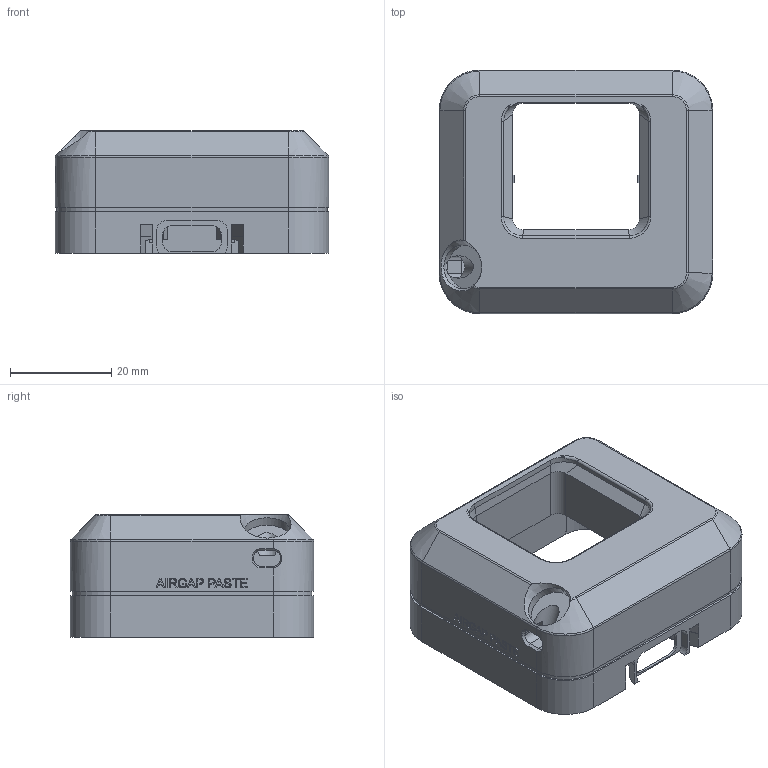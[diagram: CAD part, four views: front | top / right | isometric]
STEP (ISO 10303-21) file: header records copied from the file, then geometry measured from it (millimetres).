
FILE_DESCRIPTION(('Open CASCADE Model'),'2;1');
FILE_NAME('Open CASCADE Shape Model','2026-10-06T21:52:00',('Author'),( 'Open CASCADE'),'Open CASCADE STEP processor 7.9','Open CASCADE 7.9' ,'Unknown');
FILE_SCHEMA(('AUTOMOTIVE_DESIGN { 1 0 10303 214 1 1 1 1 }'));
Length unit declared in the file: millimetre
Products named in the file (1): Open CASCADE STEP translator 7.9 1
Bounding box: 54 x 48 x 24.2 mm (x, y, z)
Volume: 15515.6 mm3; surface area: 16528.1 mm2
Topology: 1 solids, 1 shells, 512 faces, 1380 edges, 893 vertices
Faces by surface type: plane 289, extrusion 100, cylinder 64, bspline 38, cone 13, torus 8
Full cylindrical faces by diameter (mm): 3.4 x4, 4.4 x1, 8.7 x1
Entity records: 35679 total; most frequent: CARTESIAN_POINT 10548, DIRECTION 3707, ORIENTED_EDGE 2760, PCURVE 2760, DEFINITIONAL_REPRESENTATION 2760, VECTOR 2534, LINE 2434, B_SPLINE_CURVE_WITH_KNOTS 1508
